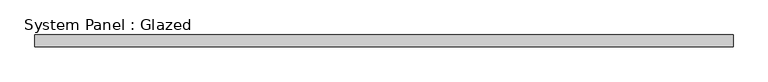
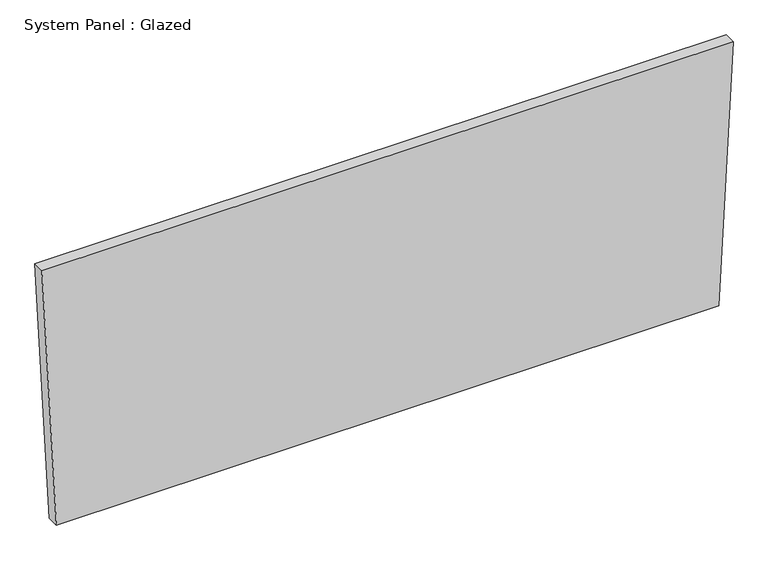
"""IFC4 building model written with IfcOpenShell, lengths in millimetres: plate geometry, System Panel : Glazed."""

import ifcopenshell
import ifcopenshell.guid

model = None  # the IFC model being written
_history = None  # IfcOwnerHistory: only IFC2X3 demands one
_inside = {}  # id of a spatial element -> (the spatial element, [elements in it])
_under = {}  # id of a project, library or spatial element -> (it, [spatial elements below it])
_declared = {}  # id of a project -> (the project, [libraries it declares])
_typed = {}  # id of a type object -> (the type object, [elements of that type])
_made_of = {}  # id of a material, layer set ... -> (it, [elements and type objects made of it])


def new_model(schema):
    """Start an empty IFC model of exactly this schema.

    Asked for "IFC4X3", IfcOpenShell would pick the latest addendum, in which some entities
    have other attributes; the version numbers below select the first issue.
    IFC2X3 requires an IfcOwnerHistory on every rooted entity: one is made here for all.
    """
    global model, _history
    if schema == "IFC4X3":
        model = ifcopenshell.file(schema_version=(4, 3, 0, 0))
    else:
        model = ifcopenshell.file(schema=schema)
    _inside.clear()
    _under.clear()
    _declared.clear()
    _typed.clear()
    _made_of.clear()
    _history = None
    if model.schema == "IFC2X3":
        org = make("IfcOrganization", Name="unknown")
        user = make(
            "IfcPersonAndOrganization",
            ThePerson=make("IfcPerson", FamilyName="unknown"),
            TheOrganization=org,
        )
        app = make(
            "IfcApplication",
            ApplicationDeveloper=org,
            Version="unknown",
            ApplicationFullName="unknown",
            ApplicationIdentifier="unknown",
        )
        _history = make(
            "IfcOwnerHistory",
            OwningUser=user,
            OwningApplication=app,
            ChangeAction="ADDED",
            CreationDate=0,
        )
    return model


def make(cls, **values):
    """One entity of the class cls with the attributes given. An attribute that is None is left unset."""
    return model.create_entity(
        cls, **{name: value for name, value in values.items() if value is not None}
    )


def rooted(cls, **values):
    """An entity with a GlobalId (a new one), such as an element, a storey or a relation."""
    return make(cls, GlobalId=ifcopenshell.guid.new(), OwnerHistory=_history, **values)


def si_unit(unit_type, name, prefix=None):
    """IfcSIUnit, for example si_unit("LENGTHUNIT", "METRE", prefix="MILLI")."""
    return make("IfcSIUnit", UnitType=unit_type, Prefix=prefix, Name=name)


def assignment(units):
    """IfcUnitAssignment: the units of a project."""
    return None if units is None else make("IfcUnitAssignment", Units=units)


def point(xyz):
    """IfcCartesianPoint."""
    return None if xyz is None else make("IfcCartesianPoint", Coordinates=xyz)


def direction(xyz):
    """IfcDirection."""
    return None if xyz is None else make("IfcDirection", DirectionRatios=xyz)


def frame(location, z_axis=None, x_axis=None):
    """IfcAxis2Placement3D, a coordinate frame: its origin and axes. An axis left out is left unset."""
    return make(
        "IfcAxis2Placement3D",
        Location=point(location),
        Axis=direction(z_axis),
        RefDirection=direction(x_axis),
    )


def origin():
    """The frame at (0, 0, 0) with its axes left unset."""
    return frame((0.0, 0.0, 0.0))


def place(relative_to, where):
    """IfcLocalPlacement: puts the frame where relative to a parent placement (None: the world)."""
    return make(
        "IfcLocalPlacement", PlacementRelTo=relative_to, RelativePlacement=where
    )


def context(
    kind, dimensions, precision=None, world=None, true_north=None, identifier=None
):
    """IfcGeometricRepresentationContext, for example the 3D "Model" context."""
    return make(
        "IfcGeometricRepresentationContext",
        ContextIdentifier=identifier,
        ContextType=kind,
        CoordinateSpaceDimension=dimensions,
        Precision=precision,
        WorldCoordinateSystem=world,
        TrueNorth=true_north,
    )


def project(units=None, contexts=None):
    """IfcProject with its units and contexts."""
    return rooted(
        "IfcProject",
        Name="project",
        RepresentationContexts=contexts,
        UnitsInContext=assignment(units),
    )


def spatial(cls, under=None, at=None, **own):
    """A site, building, storey or space (cls), placed at a placement, below another one or the project."""
    s = rooted(cls, ObjectPlacement=at, **own)
    if under is not None:
        _under.setdefault(under.id(), (under, []))[1].append(s)
    return s


def polyline(points):
    """IfcPolyline through the points."""
    return make("IfcPolyline", Points=[point(p) for p in points])


def outline(outer, holes=None, kind="AREA"):
    """IfcArbitraryClosedProfileDef: a profile drawn as a closed curve; with holes, ...WithVoids."""
    if holes is None:
        return make("IfcArbitraryClosedProfileDef", ProfileType=kind, OuterCurve=outer)
    return make(
        "IfcArbitraryProfileDefWithVoids",
        ProfileType=kind,
        OuterCurve=outer,
        InnerCurves=holes,
    )


def extrude(swept, where, along, depth):
    """IfcExtrudedAreaSolid: the profile swept, set in the frame where, extruded along a direction by depth."""
    return make(
        "IfcExtrudedAreaSolid",
        SweptArea=swept,
        Position=where,
        ExtrudedDirection=direction(along),
        Depth=depth,
    )


def shape(context_of_items, identifier, shape_type, items):
    """IfcShapeRepresentation: the items that make up one representation, for example the "Body"."""
    return make(
        "IfcShapeRepresentation",
        ContextOfItems=context_of_items,
        RepresentationIdentifier=identifier,
        RepresentationType=shape_type,
        Items=items,
    )


def source(mapping_origin, context_of_items, identifier, shape_type, items):
    """IfcRepresentationMap: a shape defined once, which mapped items show again and again."""
    return make(
        "IfcRepresentationMap",
        MappingOrigin=mapping_origin,
        MappedRepresentation=shape(context_of_items, identifier, shape_type, items),
    )


def transform(
    local_origin,
    x_axis=None,
    y_axis=None,
    z_axis=None,
    scale=None,
    scale2=None,
    scale3=None,
    uniform=True,
):
    """IfcCartesianTransformationOperator3D, or its non-uniform kind. x_axis, y_axis, z_axis: its Axis1, 2, 3."""
    if uniform:
        return make(
            "IfcCartesianTransformationOperator3D",
            Axis1=direction(x_axis),
            Axis2=direction(y_axis),
            LocalOrigin=point(local_origin),
            Scale=scale,
            Axis3=direction(z_axis),
        )
    return make(
        "IfcCartesianTransformationOperator3DnonUniform",
        Axis1=direction(x_axis),
        Axis2=direction(y_axis),
        LocalOrigin=point(local_origin),
        Scale=scale,
        Axis3=direction(z_axis),
        Scale2=scale2,
        Scale3=scale3,
    )


def mapped(mapping_source, mapping_target):
    """IfcMappedItem: shows the shape of a source again, moved by a transform."""
    return make(
        "IfcMappedItem", MappingSource=mapping_source, MappingTarget=mapping_target
    )


def made_of(thing, what):
    """Note that an element or type object is made of a material, layer set ...; save() writes the relation."""
    if what is not None:
        _made_of.setdefault(what.id(), (what, []))[1].append(thing)
    return thing


def element(
    cls,
    number,
    at=None,
    inside=None,
    cuts=None,
    type_object=None,
    material=None,
    context=None,
    identifier="Body",
    shape_type=None,
    held_by="IfcProductDefinitionShape",
    body=None,
    shapes=None,
    **own,
):
    """One element of the class cls, such as IfcWall. Its Tag is "e" and its number.

    at: its placement. inside: the storey or other place that contains it. cuts: it is an
    opening in that element (IfcRelVoidsElement). A single representation is given by context,
    identifier, shape_type and body (its items); several are given by shapes. held_by: the class
    of the entity that holds the representations. save() writes the other relations.
    """
    e = rooted(cls, Tag="e%d" % number, ObjectPlacement=at, **own)
    if body is not None:
        shapes = [shape(context, identifier, shape_type, body)]
    if shapes is not None:
        e.Representation = make(held_by, Representations=shapes)
    if inside is not None:
        _inside.setdefault(inside.id(), (inside, []))[1].append(e)
    if cuts is not None:
        rooted(
            "IfcRelVoidsElement", RelatingBuildingElement=cuts, RelatedOpeningElement=e
        )
    if type_object is not None:
        _typed.setdefault(type_object.id(), (type_object, []))[1].append(e)
    return made_of(e, material)


def aggregate(whole, parts):
    """IfcRelAggregates: a whole, such as a stair, and the parts it consists of."""
    return rooted("IfcRelAggregates", RelatingObject=whole, RelatedObjects=parts)


def save(model, path):
    """Write the relations noted so far, then the file.

    IfcRelAggregates (storeys below a building ...), IfcRelContainedInSpatialStructure (elements
    in a storey), IfcRelDefinesByType, IfcRelAssociatesMaterial and IfcRelDeclares: one each for
    every whole, place, type object, material and project.
    """
    for whole, parts in _under.values():
        aggregate(whole, parts)
    for where, things in _inside.values():
        rooted(
            "IfcRelContainedInSpatialStructure",
            RelatedElements=things,
            RelatingStructure=where,
        )
    for kind, things in _typed.values():
        rooted("IfcRelDefinesByType", RelatedObjects=things, RelatingType=kind)
    for what, things in _made_of.values():
        rooted("IfcRelAssociatesMaterial", RelatedObjects=things, RelatingMaterial=what)
    for by, libraries in _declared.values():
        rooted("IfcRelDeclares", RelatingContext=by, RelatedDefinitions=libraries)
    model.write(path)


def system_panel_glazed_035c538e(model_context):
    return source(origin(), model_context, "Body", "SweptSolid", [
        extrude(outline(polyline([(0.0, -705.2085464), (0.0, 705.2085464), (583.3538533, 735.9765908), (583.3538533, -735.9765908), (0.0, -705.2085464)])), frame((0.0, 19.05, 0.0), z_axis=(0.0, 1.0, 0.0), x_axis=(0.0, 0.0, 1.0)), (0.0, 0.0, 1.0), 25.4),
    ])


if __name__ == "__main__":
    model = new_model("IFC4")
    model_context = context("Model", 3, world=origin())
    ifc_project = project(units=[si_unit("LENGTHUNIT", "METRE", prefix="MILLI")], contexts=[model_context])
    site = spatial("IfcSite", under=ifc_project)
    building = spatial("IfcBuilding", under=site)
    placement = place(None, origin())
    system_panel_glazed_shape = system_panel_glazed_035c538e(model_context)
    element("IfcPlate", 1, ObjectType="System Panel : Glazed", at=placement, inside=building, context=model_context, shape_type="MappedRepresentation", body=[
        mapped(system_panel_glazed_shape, transform((0.0, 0.0, 0.0), x_axis=(1.0, 0.0, 0.0), y_axis=(0.0, 1.0, 0.0), z_axis=(0.0, 0.0, 1.0))),
    ])
    save(model, "model.ifc")
